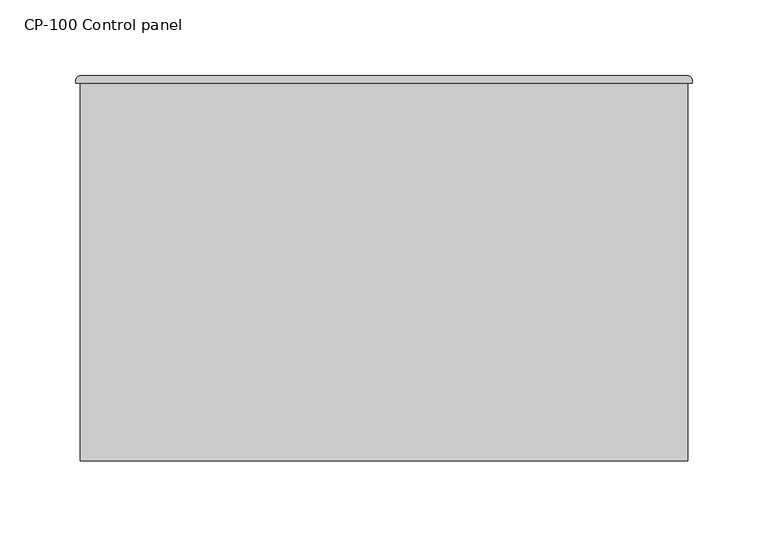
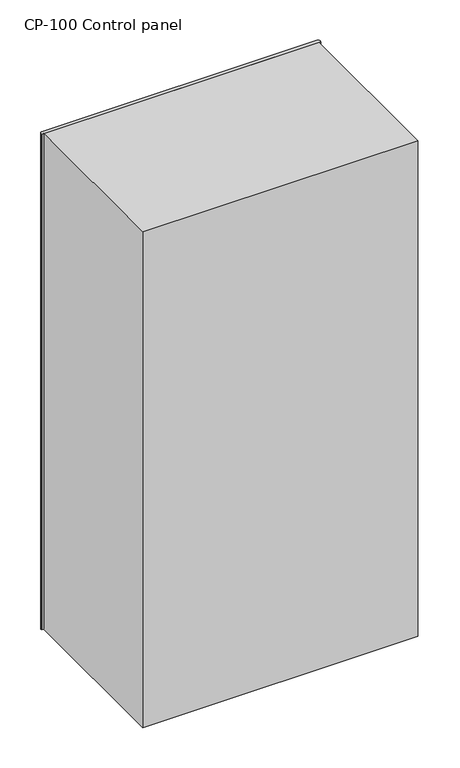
"""IFC4 building model written with IfcOpenShell, lengths in millimetres: proxy geometry, CP-100_Control_Panel_Wallmount_with_3inch_Strut_BIM_Model : CP-100 Control panel."""

from ifc_helpers import new_model, si_unit, point, frame, frame_2d, origin, place, context, project, spatial, polyline, circle_curve, trimmed, segment, composite_curve, outline, extrude, source, transform, mapped, element, save


def cp_100_control_panel_b2211e8d(model_context):
    return source(origin(), model_context, "Body", "SweptSolid", [
        extrude(outline(composite_curve([segment(trimmed(circle_curve(frame_2d((841.0, -16.7274277)), 20.0), [point((841.0, -36.7274277))], [point((841.0, 3.2725723))], False, "CARTESIAN"), True, "CONTINUOUS"), segment(trimmed(circle_curve(frame_2d((841.0, -16.7274277)), 20.0), [point((841.0, 3.2725723))], [point((841.0, -36.7274277))], False, "CARTESIAN"), True, "CONTINUOUS")], self_intersect=False), holes=[polyline([(848.2746144, -18.5031745), (848.2746144, -13.5031745), (833.2746144, -13.5031745), (833.2746144, -18.5031745), (848.2746144, -18.5031745)])]), frame((0.0, 400.4502207, 0.0), z_axis=(0.0, 1.0, 0.0), x_axis=(0.0, 0.0, 1.0)), (0.0, 0.0, 1.0), 4.5606129),
        extrude(outline(composite_curve([segment(trimmed(circle_curve(frame_2d((325.0, 598.4983329)), 3.0), [point((325.0, 601.4983329))], [point((328.0, 598.4983329))], False, "CARTESIAN"), True, "CONTINUOUS"), segment(polyline([(328.0, 598.4983329), (328.0, 596.616618), (-78.0, 596.616618), (-78.0, 598.4983329)]), True, "CONTINUOUS"), segment(trimmed(circle_curve(frame_2d((-75.0, 598.4983329)), 3.0), [point((-78.0, 598.4983329))], [point((-75.0, 601.4983329))], False, "CARTESIAN"), True, "CONTINUOUS"), segment(polyline([(-75.0, 601.4983329), (325.0, 601.4983329)]), True, "CONTINUOUS")], self_intersect=False)), frame((0.0, 0.0, 460.0), z_axis=(0.0, 0.0, 1.0), x_axis=(1.0, 0.0, 0.0)), (0.0, 0.0, 1.0), 762.0),
        extrude(outline(polyline([(325.0, 596.616618), (325.0, 347.4983329), (-75.0, 347.4983329), (-75.0, 596.616618), (325.0, 596.616618)])), frame((0.0, 0.0, 460.0), z_axis=(0.0, 0.0, 1.0), x_axis=(1.0, 0.0, 0.0)), (0.0, 0.0, 1.0), 762.0),
    ])


if __name__ == "__main__":
    model = new_model("IFC4")
    model_context = context("Model", 3, world=origin())
    ifc_project = project(units=[si_unit("LENGTHUNIT", "METRE", prefix="MILLI")], contexts=[model_context])
    site = spatial("IfcSite", under=ifc_project)
    building = spatial("IfcBuilding", under=site)
    placement = place(None, origin())
    cp_100_control_panel_shape = cp_100_control_panel_b2211e8d(model_context)
    element("IfcBuildingElementProxy", 1, Name="CP-100_Control_Panel_Wallmount_with_3inch_Strut_BIM_Model : CP-100 Control panel", ObjectType="CP-100_Control_Panel_Wallmount_with_3inch_Strut_BIM_Model : CP-100 Control panel", at=placement, inside=building, context=model_context, shape_type="MappedRepresentation", body=[
        mapped(cp_100_control_panel_shape, transform((0.0, 0.0, 0.0), x_axis=(1.0, 0.0, 0.0), y_axis=(0.0, 1.0, 0.0), z_axis=(0.0, 0.0, 1.0))),
    ])
    save(model, "model.ifc")
